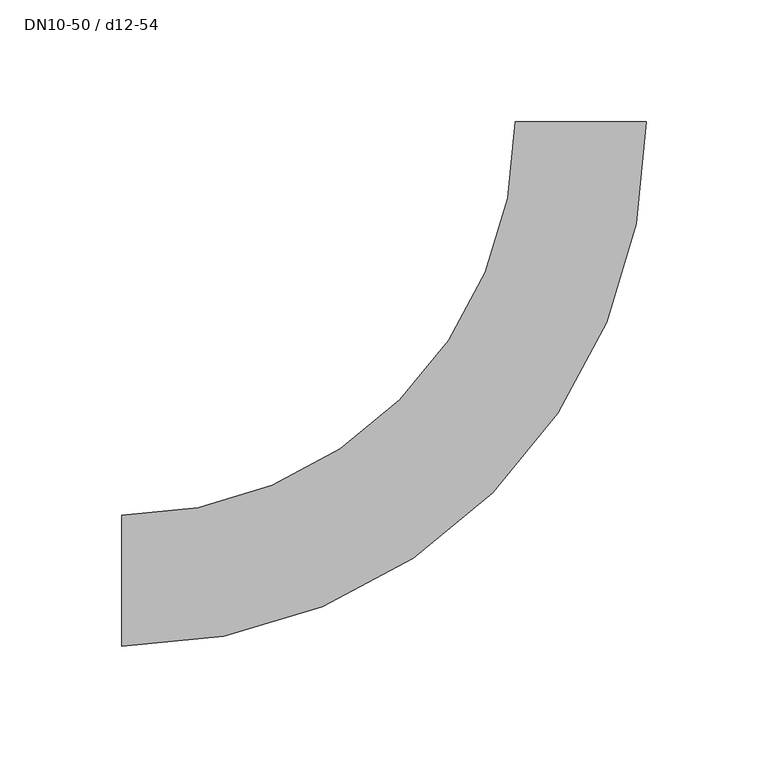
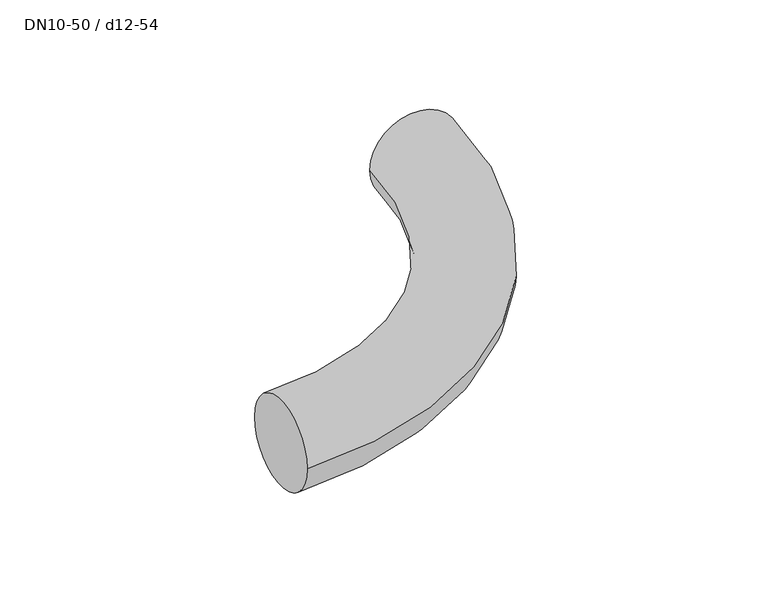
"""IFC4 building model written with IfcOpenShell, lengths in millimetres: pipe segment geometry, NLRS_50_PIF_UN_Mapress koper gebogen bocht_geb : DN10-50 / d12-54."""

import ifcopenshell
import ifcopenshell.guid

model = None  # the IFC model being written
_history = None  # IfcOwnerHistory: only IFC2X3 demands one
_inside = {}  # id of a spatial element -> (the spatial element, [elements in it])
_under = {}  # id of a project, library or spatial element -> (it, [spatial elements below it])
_declared = {}  # id of a project -> (the project, [libraries it declares])
_typed = {}  # id of a type object -> (the type object, [elements of that type])
_made_of = {}  # id of a material, layer set ... -> (it, [elements and type objects made of it])


def new_model(schema):
    """Start an empty IFC model of exactly this schema.

    Asked for "IFC4X3", IfcOpenShell would pick the latest addendum, in which some entities
    have other attributes; the version numbers below select the first issue.
    IFC2X3 requires an IfcOwnerHistory on every rooted entity: one is made here for all.
    """
    global model, _history
    if schema == "IFC4X3":
        model = ifcopenshell.file(schema_version=(4, 3, 0, 0))
    else:
        model = ifcopenshell.file(schema=schema)
    _inside.clear()
    _under.clear()
    _declared.clear()
    _typed.clear()
    _made_of.clear()
    _history = None
    if model.schema == "IFC2X3":
        org = make("IfcOrganization", Name="unknown")
        user = make(
            "IfcPersonAndOrganization",
            ThePerson=make("IfcPerson", FamilyName="unknown"),
            TheOrganization=org,
        )
        app = make(
            "IfcApplication",
            ApplicationDeveloper=org,
            Version="unknown",
            ApplicationFullName="unknown",
            ApplicationIdentifier="unknown",
        )
        _history = make(
            "IfcOwnerHistory",
            OwningUser=user,
            OwningApplication=app,
            ChangeAction="ADDED",
            CreationDate=0,
        )
    return model


def make(cls, **values):
    """One entity of the class cls with the attributes given. An attribute that is None is left unset."""
    return model.create_entity(
        cls, **{name: value for name, value in values.items() if value is not None}
    )


def rooted(cls, **values):
    """An entity with a GlobalId (a new one), such as an element, a storey or a relation."""
    return make(cls, GlobalId=ifcopenshell.guid.new(), OwnerHistory=_history, **values)


def si_unit(unit_type, name, prefix=None):
    """IfcSIUnit, for example si_unit("LENGTHUNIT", "METRE", prefix="MILLI")."""
    return make("IfcSIUnit", UnitType=unit_type, Prefix=prefix, Name=name)


def assignment(units):
    """IfcUnitAssignment: the units of a project."""
    return None if units is None else make("IfcUnitAssignment", Units=units)


def point(xyz):
    """IfcCartesianPoint."""
    return None if xyz is None else make("IfcCartesianPoint", Coordinates=xyz)


def direction(xyz):
    """IfcDirection."""
    return None if xyz is None else make("IfcDirection", DirectionRatios=xyz)


def frame(location, z_axis=None, x_axis=None):
    """IfcAxis2Placement3D, a coordinate frame: its origin and axes. An axis left out is left unset."""
    return make(
        "IfcAxis2Placement3D",
        Location=point(location),
        Axis=direction(z_axis),
        RefDirection=direction(x_axis),
    )


def origin():
    """The frame at (0, 0, 0) with its axes left unset."""
    return frame((0.0, 0.0, 0.0))


def place(relative_to, where):
    """IfcLocalPlacement: puts the frame where relative to a parent placement (None: the world)."""
    return make(
        "IfcLocalPlacement", PlacementRelTo=relative_to, RelativePlacement=where
    )


def context(
    kind, dimensions, precision=None, world=None, true_north=None, identifier=None
):
    """IfcGeometricRepresentationContext, for example the 3D "Model" context."""
    return make(
        "IfcGeometricRepresentationContext",
        ContextIdentifier=identifier,
        ContextType=kind,
        CoordinateSpaceDimension=dimensions,
        Precision=precision,
        WorldCoordinateSystem=world,
        TrueNorth=true_north,
    )


def project(units=None, contexts=None):
    """IfcProject with its units and contexts."""
    return rooted(
        "IfcProject",
        Name="project",
        RepresentationContexts=contexts,
        UnitsInContext=assignment(units),
    )


def spatial(cls, under=None, at=None, **own):
    """A site, building, storey or space (cls), placed at a placement, below another one or the project."""
    s = rooted(cls, ObjectPlacement=at, **own)
    if under is not None:
        _under.setdefault(under.id(), (under, []))[1].append(s)
    return s


def circle_curve(where, radius):
    """IfcCircle in the frame where."""
    return make("IfcCircle", Position=where, Radius=radius)


def ellipse_curve(where, semi_axis1, semi_axis2):
    """IfcEllipse in the frame where."""
    return make(
        "IfcEllipse", Position=where, SemiAxis1=semi_axis1, SemiAxis2=semi_axis2
    )


def trimmed(basis, trim1, trim2, sense, master):
    """IfcTrimmedCurve: the piece of a basis curve between two trims."""
    return make(
        "IfcTrimmedCurve",
        BasisCurve=basis,
        Trim1=trim1,
        Trim2=trim2,
        SenseAgreement=sense,
        MasterRepresentation=master,
    )


def shape(context_of_items, identifier, shape_type, items):
    """IfcShapeRepresentation: the items that make up one representation, for example the "Body"."""
    return make(
        "IfcShapeRepresentation",
        ContextOfItems=context_of_items,
        RepresentationIdentifier=identifier,
        RepresentationType=shape_type,
        Items=items,
    )


def source(mapping_origin, context_of_items, identifier, shape_type, items):
    """IfcRepresentationMap: a shape defined once, which mapped items show again and again."""
    return make(
        "IfcRepresentationMap",
        MappingOrigin=mapping_origin,
        MappedRepresentation=shape(context_of_items, identifier, shape_type, items),
    )


def transform(
    local_origin,
    x_axis=None,
    y_axis=None,
    z_axis=None,
    scale=None,
    scale2=None,
    scale3=None,
    uniform=True,
):
    """IfcCartesianTransformationOperator3D, or its non-uniform kind. x_axis, y_axis, z_axis: its Axis1, 2, 3."""
    if uniform:
        return make(
            "IfcCartesianTransformationOperator3D",
            Axis1=direction(x_axis),
            Axis2=direction(y_axis),
            LocalOrigin=point(local_origin),
            Scale=scale,
            Axis3=direction(z_axis),
        )
    return make(
        "IfcCartesianTransformationOperator3DnonUniform",
        Axis1=direction(x_axis),
        Axis2=direction(y_axis),
        LocalOrigin=point(local_origin),
        Scale=scale,
        Axis3=direction(z_axis),
        Scale2=scale2,
        Scale3=scale3,
    )


def mapped(mapping_source, mapping_target):
    """IfcMappedItem: shows the shape of a source again, moved by a transform."""
    return make(
        "IfcMappedItem", MappingSource=mapping_source, MappingTarget=mapping_target
    )


def made_of(thing, what):
    """Note that an element or type object is made of a material, layer set ...; save() writes the relation."""
    if what is not None:
        _made_of.setdefault(what.id(), (what, []))[1].append(thing)
    return thing


def element(
    cls,
    number,
    at=None,
    inside=None,
    cuts=None,
    type_object=None,
    material=None,
    context=None,
    identifier="Body",
    shape_type=None,
    held_by="IfcProductDefinitionShape",
    body=None,
    shapes=None,
    **own,
):
    """One element of the class cls, such as IfcWall. Its Tag is "e" and its number.

    at: its placement. inside: the storey or other place that contains it. cuts: it is an
    opening in that element (IfcRelVoidsElement). A single representation is given by context,
    identifier, shape_type and body (its items); several are given by shapes. held_by: the class
    of the entity that holds the representations. save() writes the other relations.
    """
    e = rooted(cls, Tag="e%d" % number, ObjectPlacement=at, **own)
    if body is not None:
        shapes = [shape(context, identifier, shape_type, body)]
    if shapes is not None:
        e.Representation = make(held_by, Representations=shapes)
    if inside is not None:
        _inside.setdefault(inside.id(), (inside, []))[1].append(e)
    if cuts is not None:
        rooted(
            "IfcRelVoidsElement", RelatingBuildingElement=cuts, RelatedOpeningElement=e
        )
    if type_object is not None:
        _typed.setdefault(type_object.id(), (type_object, []))[1].append(e)
    return made_of(e, material)


def aggregate(whole, parts):
    """IfcRelAggregates: a whole, such as a stair, and the parts it consists of."""
    return rooted("IfcRelAggregates", RelatingObject=whole, RelatedObjects=parts)


def save(model, path):
    """Write the relations noted so far, then the file.

    IfcRelAggregates (storeys below a building ...), IfcRelContainedInSpatialStructure (elements
    in a storey), IfcRelDefinesByType, IfcRelAssociatesMaterial and IfcRelDeclares: one each for
    every whole, place, type object, material and project.
    """
    for whole, parts in _under.values():
        aggregate(whole, parts)
    for where, things in _inside.values():
        rooted(
            "IfcRelContainedInSpatialStructure",
            RelatedElements=things,
            RelatingStructure=where,
        )
    for kind, things in _typed.values():
        rooted("IfcRelDefinesByType", RelatedObjects=things, RelatingType=kind)
    for what, things in _made_of.values():
        rooted("IfcRelAssociatesMaterial", RelatedObjects=things, RelatingMaterial=what)
    for by, libraries in _declared.values():
        rooted("IfcRelDeclares", RelatingContext=by, RelatedDefinitions=libraries)
    model.write(path)


def plane_surface(at):
    """IfcPlane: the flat surface through the origin of the frame at, square to its z axis."""
    return make("IfcPlane", Position=at)


def revolved_surface(curve, axis_point, axis_direction):
    """IfcSurfaceOfRevolution: the curve turned about the line through axis_point along axis_direction."""
    return make(
        "IfcSurfaceOfRevolution",
        SweptCurve=make("IfcArbitraryOpenProfileDef", ProfileType="CURVE", Curve=curve),
        AxisPosition=make("IfcAxis1Placement", Location=point(axis_point), Axis=direction(axis_direction)),
    )


def advanced_brep(points, edges, surfaces, faces):
    """IfcAdvancedBrep: a solid bounded by faces that lie on surfaces and meet in shared edges.

    An edge is (start, end): straight between two places in points (the first is 0);
    or (start, end, curve); or (start, end, curve, False) where it runs against its curve.
    A face is (place in surfaces, loops), or (place, loops, False) where it looks against
    its surface's normal. A loop lists edges by number (the first is 1), with a minus sign
    where the edge is run from its end to its start. The first loop is the outer one.
    """
    corners = [point(p) for p in points]
    vertices = [make("IfcVertexPoint", VertexGeometry=c) for c in corners]
    made = []
    for start, end, *more in edges:
        made.append(
            make(
                "IfcEdgeCurve",
                EdgeStart=vertices[start],
                EdgeEnd=vertices[end],
                EdgeGeometry=more[0] if more else make("IfcPolyline", Points=[corners[start], corners[end]]),
                SameSense=more[1] if len(more) > 1 else True,
            )
        )
    hull = []
    for where, loops, *sense in faces:
        bounds = []
        for j, loop in enumerate(loops):
            ring = [make("IfcOrientedEdge", EdgeElement=made[abs(k) - 1], Orientation=k > 0) for k in loop]
            bounds.append(
                make(
                    "IfcFaceOuterBound" if j == 0 else "IfcFaceBound",
                    Bound=make("IfcEdgeLoop", EdgeList=ring),
                    Orientation=True,
                )
            )
        hull.append(make("IfcAdvancedFace", Bounds=bounds, FaceSurface=surfaces[where], SameSense=sense[0] if sense else True))
    return make("IfcAdvancedBrep", Outer=make("IfcClosedShell", CfsFaces=hull))


def dn10_50_d12_54_8f782e33(model_context):
    return source(origin(), model_context, "Body", "AdvancedBrep", [
        advanced_brep(
        [(-189.0, -27.0, 0.0), (-189.0, 27.0, 0.0), (27.0, 189.0, 0.0), (-27.0, 189.0, 0.0)],
        [
            (0, 1, circle_curve(frame((-189.0, 0.0, 0.0), z_axis=(-1.0, 0.0, 0.0), x_axis=(0.0, 1.0, 0.0)), 27.0)),
            (1, 0, circle_curve(frame((-189.0, 0.0, 0.0), z_axis=(-1.0, 0.0, 0.0), x_axis=(0.0, 1.0, 0.0)), 27.0)),
            (2, 3, circle_curve(frame((0.0, 189.0, 0.0), z_axis=(0.0, 1.0, 0.0), x_axis=(-1.0, 0.0, 0.0)), 27.0)),
            (3, 2, circle_curve(frame((0.0, 189.0, 0.0), z_axis=(0.0, 1.0, 0.0), x_axis=(-1.0, 0.0, 0.0)), 27.0)),
            (3, 1, circle_curve(frame((-189.0, 189.0, 0.0), z_axis=(0.0, 0.0, -1.0), x_axis=(0.0, -1.0, 0.0)), 162.0)),
            (0, 2, circle_curve(frame((-189.0, 189.0, 0.0), z_axis=(0.0, 0.0, 1.0), x_axis=(0.0, -1.0, 0.0)), 216.0)),
        ],
        [
            plane_surface(frame((-189.0, 0.0, 0.0), z_axis=(-1.0, 0.0, 0.0), x_axis=(0.0, 0.0, 1.0))),
            plane_surface(frame((0.0, 189.0, 0.0), z_axis=(0.0, 1.0, 0.0), x_axis=(0.0, 0.0, 1.0))),
            revolved_surface(trimmed(ellipse_curve(frame((-189.0, 0.0, 0.0), z_axis=(-1.0, 0.0, 0.0), x_axis=(0.0, 1.0, 0.0)), 27.0, 27.0), [point((-189.0, -27.0, 0.0))], [point((-189.0, 27.0, 0.0))], True, "CARTESIAN"), (-189.0, 189.0, 0.0), (0.0, 0.0, 1.0)),
            revolved_surface(trimmed(ellipse_curve(frame((-189.0, 0.0, 0.0), z_axis=(-1.0, 0.0, 0.0), x_axis=(0.0, 1.0, 0.0)), 27.0, 27.0), [point((-189.0, 27.0, 0.0))], [point((-189.0, -27.0, 0.0))], True, "CARTESIAN"), (-189.0, 189.0, 0.0), (0.0, 0.0, 1.0)),
        ],
        [
            (0, [[1, 2]]),
            (1, [[3, 4]]),
            (2, [[5, -1, 6, -4]]),
            (3, [[-6, -2, -5, -3]]),
        ],
    ),
    ])


if __name__ == "__main__":
    model = new_model("IFC4")
    model_context = context("Model", 3, world=origin())
    ifc_project = project(units=[si_unit("LENGTHUNIT", "METRE", prefix="MILLI")], contexts=[model_context])
    site = spatial("IfcSite", under=ifc_project)
    building = spatial("IfcBuilding", under=site)
    placement = place(None, origin())
    dn10_50_d12_54_shape = dn10_50_d12_54_8f782e33(model_context)
    element("IfcPipeSegment", 1, ObjectType="NLRS_50_PIF_UN_Mapress koper gebogen bocht_geb : DN10-50 / d12-54", at=placement, inside=building, context=model_context, shape_type="MappedRepresentation", body=[
        mapped(dn10_50_d12_54_shape, transform((0.0, 0.0, 0.0), x_axis=(1.0, 0.0, 0.0), y_axis=(0.0, 1.0, 0.0), z_axis=(0.0, 0.0, 1.0))),
    ])
    save(model, "model.ifc")
